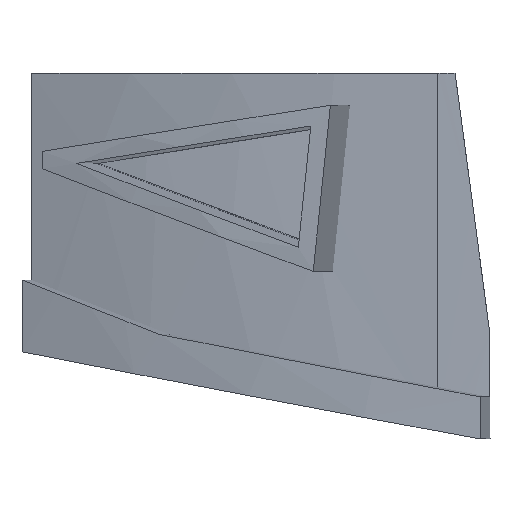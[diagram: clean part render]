
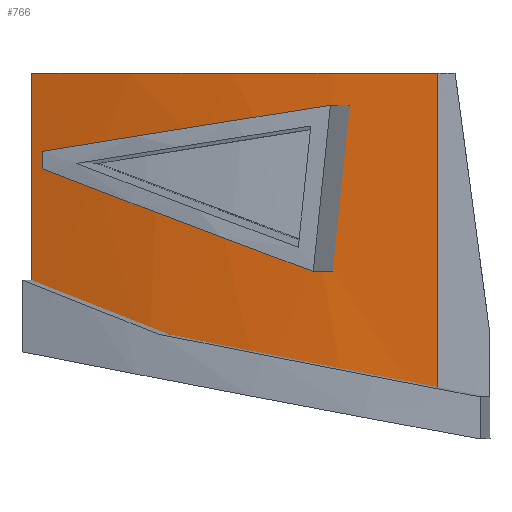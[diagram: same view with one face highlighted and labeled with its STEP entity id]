
A CAD part, left-side view. The second image highlights one B-rep face of the part: STEP entity #766.
In plain terms, the highlighted cylindrical face has radius 75 mm (diameter 150 mm), a partial arc.
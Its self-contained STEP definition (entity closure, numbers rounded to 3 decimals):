
#26=FACE_BOUND('',#168,.T.);
#31=ELLIPSE('',#818,76.302,75.);
#33=ELLIPSE('',#824,79.955,75.);
#35=ELLIPSE('',#827,724.604,75.);
#37=ELLIPSE('',#830,75.907,75.);
#89=CIRCLE('',#842,75.);
#118=FACE_OUTER_BOUND('',#167,.T.);
#167=EDGE_LOOP('',(#598,#599,#600,#601,#602));
#168=EDGE_LOOP('',(#603,#604,#605));
#208=LINE('',#1367,#268);
#220=LINE('',#1413,#280);
#268=VECTOR('',#917,10.);
#280=VECTOR('',#967,10.);
#322=B_SPLINE_CURVE_WITH_KNOTS('',3,(#1137,#1138,#1139,#1140,#1141,#1142,
#1143,#1144,#1145,#1146),.UNSPECIFIED.,.F.,.F.,(4,2,2,2,4),(0.235,
0.245,0.264,0.283,0.301),
 .UNSPECIFIED.);
#337=VERTEX_POINT('',#1134);
#338=VERTEX_POINT('',#1136);
#346=VERTEX_POINT('',#1296);
#349=VERTEX_POINT('',#1365);
#356=VERTEX_POINT('',#1380);
#357=VERTEX_POINT('',#1382);
#359=VERTEX_POINT('',#1388);
#364=VERTEX_POINT('',#1412);
#409=EDGE_CURVE('',#337,#338,#322,.T.);
#423=EDGE_CURVE('',#337,#346,#31,.T.);
#429=EDGE_CURVE('',#349,#346,#208,.T.);
#436=EDGE_CURVE('',#357,#356,#33,.T.);
#439=EDGE_CURVE('',#359,#357,#35,.T.);
#442=EDGE_CURVE('',#356,#359,#37,.T.);
#451=EDGE_CURVE('',#338,#364,#220,.T.);
#453=EDGE_CURVE('',#349,#364,#89,.T.);
#598=ORIENTED_EDGE('',*,*,#409,.F.);
#599=ORIENTED_EDGE('',*,*,#423,.T.);
#600=ORIENTED_EDGE('',*,*,#429,.F.);
#601=ORIENTED_EDGE('',*,*,#453,.T.);
#602=ORIENTED_EDGE('',*,*,#451,.F.);
#603=ORIENTED_EDGE('',*,*,#442,.T.);
#604=ORIENTED_EDGE('',*,*,#439,.T.);
#605=ORIENTED_EDGE('',*,*,#436,.T.);
#742=CYLINDRICAL_SURFACE('',#841,75.);
#766=ADVANCED_FACE('',(#118,#26),#742,.T.);
#818=AXIS2_PLACEMENT_3D('',#1298,#907,#908);
#824=AXIS2_PLACEMENT_3D('',#1383,#927,#928);
#827=AXIS2_PLACEMENT_3D('',#1389,#934,#935);
#830=AXIS2_PLACEMENT_3D('',#1393,#941,#942);
#841=AXIS2_PLACEMENT_3D('',#1415,#969,#970);
#842=AXIS2_PLACEMENT_3D('',#1416,#971,#972);
#907=DIRECTION('center_axis',(-0.034,-0.181,0.983));
#908=DIRECTION('ref_axis',(-0.182,-0.966,-0.184));
#917=DIRECTION('',(0.,0.,-1.));
#927=DIRECTION('center_axis',(0.064,0.341,-0.938));
#928=DIRECTION('ref_axis',(-0.173,-0.922,-0.347));
#934=DIRECTION('center_axis',(-0.184,-0.977,-0.104));
#935=DIRECTION('ref_axis',(-0.019,-0.102,0.995));
#941=DIRECTION('center_axis',(0.029,0.152,0.988));
#942=DIRECTION('ref_axis',(-0.183,-0.971,0.154));
#967=DIRECTION('',(0.,0.,1.));
#969=DIRECTION('center_axis',(0.,0.,-1.));
#970=DIRECTION('ref_axis',(-1.,0.,0.));
#971=DIRECTION('center_axis',(0.,0.,
-1.));
#972=DIRECTION('ref_axis',(-1.,0.,0.));
#1134=CARTESIAN_POINT('',(-70.384,25.906,-1.076));
#1136=CARTESIAN_POINT('',(-70.241,26.29,-0.584));
#1137=CARTESIAN_POINT('Ctrl Pts',(-70.384,25.906,-1.076));
#1138=CARTESIAN_POINT('Ctrl Pts',(-70.372,25.938,-1.069));
#1139=CARTESIAN_POINT('Ctrl Pts',(-70.36,25.97,-1.059));
#1140=CARTESIAN_POINT('Ctrl Pts',(-70.327,26.059,-1.02));
#1141=CARTESIAN_POINT('Ctrl Pts',(-70.308,26.111,-0.982));
#1142=CARTESIAN_POINT('Ctrl Pts',(-70.277,26.194,-0.893));
#1143=CARTESIAN_POINT('Ctrl Pts',(-70.264,26.231,-0.837));
#1144=CARTESIAN_POINT('Ctrl Pts',(-70.246,26.278,-0.713));
#1145=CARTESIAN_POINT('Ctrl Pts',(-70.241,26.29,-0.646));
#1146=CARTESIAN_POINT('Ctrl Pts',(-70.241,26.29,-0.584));
#1296=CARTESIAN_POINT('',(-74.94,3.,-5.446));
#1298=CARTESIAN_POINT('Origin',(0.,0.,-3.405));
#1365=CARTESIAN_POINT('',(-74.94,3.,15.));
#1367=CARTESIAN_POINT('',(-74.94,3.,4.));
#1380=CARTESIAN_POINT('',(-71.509,22.617,9.812));
#1382=CARTESIAN_POINT('',(-74.345,9.889,4.997));
#1383=CARTESIAN_POINT('Origin',(0.,0.,6.485));
#1388=CARTESIAN_POINT('',(-74.437,9.169,11.959));
#1389=CARTESIAN_POINT('Origin',(0.,0.,-33.703));
#1393=CARTESIAN_POINT('Origin',(0.,0.,11.218));
#1412=CARTESIAN_POINT('',(-70.241,26.29,15.));
#1413=CARTESIAN_POINT('',(-70.241,26.29,-7.));
#1415=CARTESIAN_POINT('Origin',(0.,0.,4.));
#1416=CARTESIAN_POINT('Origin',(0.,0.,
15.));
